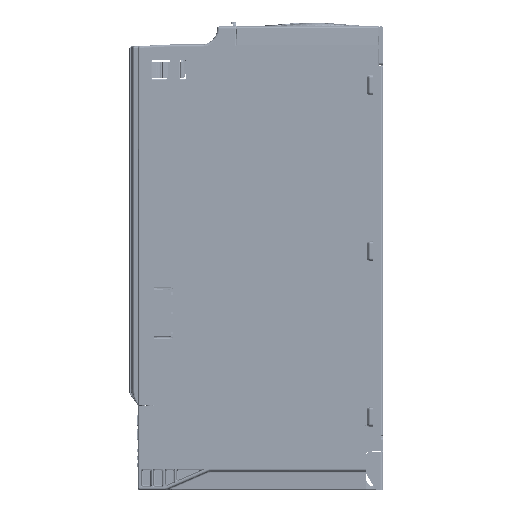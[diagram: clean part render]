
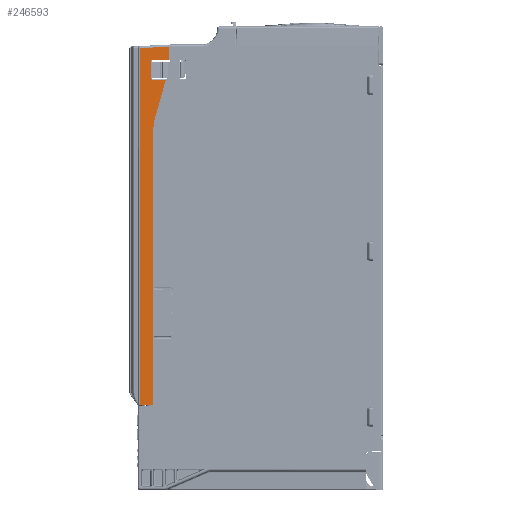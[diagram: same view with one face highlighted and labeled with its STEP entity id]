
A CAD part, left-side view. The second image highlights one B-rep face of the part: STEP entity #246593.
In plain terms, the highlighted planar face has unit normal (-1, 0, 0).
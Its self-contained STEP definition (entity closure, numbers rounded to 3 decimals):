
#5924=B_SPLINE_CURVE_WITH_KNOTS('',3,(#461095,#461096,#461097,#461098,#461099),
 .UNSPECIFIED.,.F.,.F.,(4,1,4),(0.,0.5,1.),.UNSPECIFIED.);
#5925=B_SPLINE_CURVE_WITH_KNOTS('',3,(#461103,#461104,#461105,#461106,#461107),
 .UNSPECIFIED.,.F.,.F.,(4,1,4),(0.,0.5,1.),.UNSPECIFIED.);
#18684=CIRCLE('',#264227,30.5);
#18685=CIRCLE('',#264228,1.002);
#18686=CIRCLE('',#264229,1.002);
#30429=FACE_OUTER_BOUND('',#44957,.T.);
#44957=EDGE_LOOP('',(#214570,#214571,#214572,#214573,#214574,#214575,#214576,
#214577,#214578,#214579,#214580,#214581,#214582,#214583));
#67985=LINE('',#461064,#92688);
#67988=LINE('',#461071,#92691);
#67992=LINE('',#461083,#92695);
#67993=LINE('',#461085,#92696);
#67994=LINE('',#461089,#92697);
#67995=LINE('',#461091,#92698);
#67996=LINE('',#461101,#92699);
#67997=LINE('',#461110,#92700);
#67998=LINE('',#461111,#92701);
#92688=VECTOR('',#317707,11.498);
#92691=VECTOR('',#317714,10.);
#92695=VECTOR('',#317724,9.501);
#92696=VECTOR('',#317725,189.617);
#92697=VECTOR('',#317728,27.399);
#92698=VECTOR('',#317729,9.081);
#92699=VECTOR('',#317732,11.008);
#92700=VECTOR('',#317735,20.529);
#92701=VECTOR('',#317736,246.33);
#115920=VERTEX_POINT('',#461061);
#115921=VERTEX_POINT('',#461063);
#115923=VERTEX_POINT('',#461069);
#115927=VERTEX_POINT('',#461081);
#115928=VERTEX_POINT('',#461082);
#115929=VERTEX_POINT('',#461084);
#115930=VERTEX_POINT('',#461086);
#115931=VERTEX_POINT('',#461088);
#115932=VERTEX_POINT('',#461090);
#115933=VERTEX_POINT('',#461092);
#115934=VERTEX_POINT('',#461094);
#115935=VERTEX_POINT('',#461100);
#115936=VERTEX_POINT('',#461102);
#115937=VERTEX_POINT('',#461109);
#149390=EDGE_CURVE('',#115921,#115920,#67985,.T.);
#149394=EDGE_CURVE('',#115923,#115920,#67988,.T.);
#149399=EDGE_CURVE('',#115927,#115928,#67992,.T.);
#149400=EDGE_CURVE('',#115927,#115929,#67993,.T.);
#149401=EDGE_CURVE('',#115929,#115930,#18684,.T.);
#149402=EDGE_CURVE('',#115930,#115931,#67994,.T.);
#149403=EDGE_CURVE('',#115932,#115931,#67995,.T.);
#149404=EDGE_CURVE('',#115933,#115932,#18685,.T.);
#149405=EDGE_CURVE('',#115934,#115933,#5924,.T.);
#149406=EDGE_CURVE('',#115934,#115935,#67996,.T.);
#149407=EDGE_CURVE('',#115936,#115935,#5925,.T.);
#149408=EDGE_CURVE('',#115936,#115921,#18686,.T.);
#149409=EDGE_CURVE('',#115937,#115923,#67997,.T.);
#149410=EDGE_CURVE('',#115928,#115937,#67998,.T.);
#214570=ORIENTED_EDGE('',*,*,#149399,.F.);
#214571=ORIENTED_EDGE('',*,*,#149400,.T.);
#214572=ORIENTED_EDGE('',*,*,#149401,.T.);
#214573=ORIENTED_EDGE('',*,*,#149402,.T.);
#214574=ORIENTED_EDGE('',*,*,#149403,.F.);
#214575=ORIENTED_EDGE('',*,*,#149404,.F.);
#214576=ORIENTED_EDGE('',*,*,#149405,.F.);
#214577=ORIENTED_EDGE('',*,*,#149406,.T.);
#214578=ORIENTED_EDGE('',*,*,#149407,.F.);
#214579=ORIENTED_EDGE('',*,*,#149408,.T.);
#214580=ORIENTED_EDGE('',*,*,#149390,.T.);
#214581=ORIENTED_EDGE('',*,*,#149394,.F.);
#214582=ORIENTED_EDGE('',*,*,#149409,.F.);
#214583=ORIENTED_EDGE('',*,*,#149410,.F.);
#234042=PLANE('',#264226);
#246593=ADVANCED_FACE('',(#30429),#234042,.T.);
#264226=AXIS2_PLACEMENT_3D('',#461080,#317722,#317723);
#264227=AXIS2_PLACEMENT_3D('',#461087,#317726,#317727);
#264228=AXIS2_PLACEMENT_3D('',#461093,#317730,#317731);
#264229=AXIS2_PLACEMENT_3D('',#461108,#317733,#317734);
#317707=DIRECTION('',(0.,-1.,0.));
#317714=DIRECTION('',(0.,0.,-1.));
#317722=DIRECTION('center_axis',(-1.,0.,0.));
#317723=DIRECTION('ref_axis',(0.,0.,1.));
#317724=DIRECTION('',(0.,1.,-0.017));
#317725=DIRECTION('',(0.,0.,1.));
#317726=DIRECTION('center_axis',(1.,0.,0.));
#317727=DIRECTION('ref_axis',(0.,1.,0.));
#317728=DIRECTION('',(0.,-0.271,0.962));
#317729=DIRECTION('',(0.,-1.,0.));
#317730=DIRECTION('center_axis',(-1.,0.,0.));
#317731=DIRECTION('ref_axis',(0.,0.87,0.494));
#317732=DIRECTION('',(0.,0.,1.));
#317733=DIRECTION('center_axis',(1.,0.,0.));
#317734=DIRECTION('ref_axis',(0.,0.87,-0.494));
#317735=DIRECTION('',(0.,-0.999,0.053));
#317736=DIRECTION('',(0.,0.,1.));
#461061=CARTESIAN_POINT('',(-58.,147.5,137.));
#461063=CARTESIAN_POINT('',(-58.,158.998,137.));
#461064=CARTESIAN_POINT('',(-58.,158.998,137.));
#461069=CARTESIAN_POINT('',(-58.,147.5,145.985));
#461071=CARTESIAN_POINT('',(-58.,147.5,-12.175));
#461080=CARTESIAN_POINT('Origin',(-58.,0.,-160.));
#461081=CARTESIAN_POINT('',(-58.,158.5,-101.267));
#461082=CARTESIAN_POINT('',(-58.,168.,-101.432));
#461083=CARTESIAN_POINT('',(-58.,158.5,-101.267));
#461084=CARTESIAN_POINT('',(-58.,158.5,88.35));
#461085=CARTESIAN_POINT('',(-58.,158.5,-101.267));
#461086=CARTESIAN_POINT('',(-58.,157.355,96.63));
#461087=CARTESIAN_POINT('Origin',(-58.,128.,88.35));
#461088=CARTESIAN_POINT('',(-58.,149.917,123.));
#461089=CARTESIAN_POINT('',(-58.,157.355,96.63));
#461090=CARTESIAN_POINT('',(-58.,158.998,123.));
#461091=CARTESIAN_POINT('',(-58.,158.998,123.));
#461092=CARTESIAN_POINT('',(-58.,159.869,124.497));
#461093=CARTESIAN_POINT('Origin',(-58.,158.998,124.002));
#461094=CARTESIAN_POINT('',(-58.,159.973,124.496));
#461095=CARTESIAN_POINT('Ctrl Pts',(-58.,159.973,124.496));
#461096=CARTESIAN_POINT('Ctrl Pts',(-58.,159.956,124.496));
#461097=CARTESIAN_POINT('Ctrl Pts',(-58.,159.921,124.496));
#461098=CARTESIAN_POINT('Ctrl Pts',(-58.,159.887,124.497));
#461099=CARTESIAN_POINT('Ctrl Pts',(-58.,159.869,124.497));
#461100=CARTESIAN_POINT('',(-58.,159.973,135.504));
#461101=CARTESIAN_POINT('',(-58.,159.973,124.496));
#461102=CARTESIAN_POINT('',(-58.,159.869,135.503));
#461103=CARTESIAN_POINT('Ctrl Pts',(-58.,159.869,135.503));
#461104=CARTESIAN_POINT('Ctrl Pts',(-58.,159.887,135.503));
#461105=CARTESIAN_POINT('Ctrl Pts',(-58.,159.921,135.504));
#461106=CARTESIAN_POINT('Ctrl Pts',(-58.,159.956,135.504));
#461107=CARTESIAN_POINT('Ctrl Pts',(-58.,159.973,135.504));
#461108=CARTESIAN_POINT('Origin',(-58.,158.998,135.998));
#461109=CARTESIAN_POINT('',(-58.,168.,144.897));
#461110=CARTESIAN_POINT('',(-58.,168.,144.897));
#461111=CARTESIAN_POINT('',(-58.,168.,-101.432));
